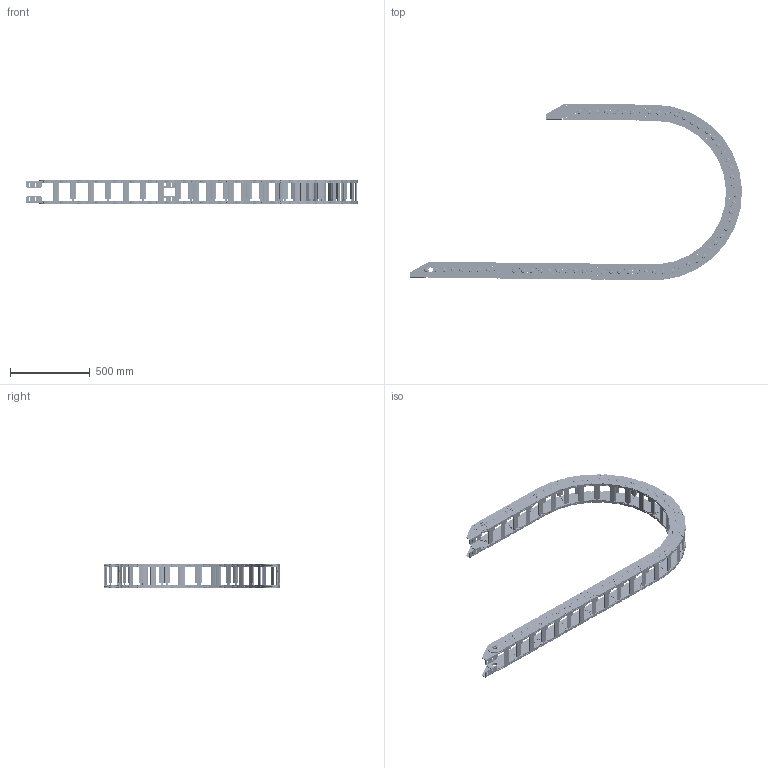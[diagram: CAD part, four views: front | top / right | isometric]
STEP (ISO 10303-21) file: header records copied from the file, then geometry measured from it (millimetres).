
FILE_DESCRIPTION((''),'2;1');
FILE_NAME('80GD-75-R500_ASM','2022-07-31T15:44:15',('admin'),(''),'CREO PARAMETRIC BY PTC INC, 2021164','CREO PARAMETRIC BY PTC INC, 2021164','');
FILE_SCHEMA(('CONFIG_CONTROL_DESIGN','GEOMETRIC_VALIDATION_PROPERTIES_MIM'));
Length unit declared in the file: millimetre
Products named in the file (5): 80-A; 80-B; 80-LTT; 80-LTT-2; 80GD-75-R500_ASM
Assembly tree (34 placements, depth 2):
  80GD-75-R500_ASM
    80-A  x16
    80-B  x16
    80-LTT
    80-LTT-2
Bounding box: 2081.46 x 1105.97 x 150.3 mm (x, y, z)
Volume: 15129549 mm3; surface area: 4719197.1 mm2
Topology: 132 solids, 132 shells, 5600 faces, 15166 edges, 10282 vertices
Faces by surface type: cylinder 2468, plane 2236, torus 640, cone 256
Entity records: 21525 total; most frequent: DIRECTION 3106, CARTESIAN_POINT 2870, ORIENTED_EDGE 2732, EDGE_CURVE 1366, AXIS2_PLACEMENT_3D 1201, PRESENTATION_STYLE_ASSIGNMENT 1114, STYLED_ITEM 1114, VERTEX_POINT 922
